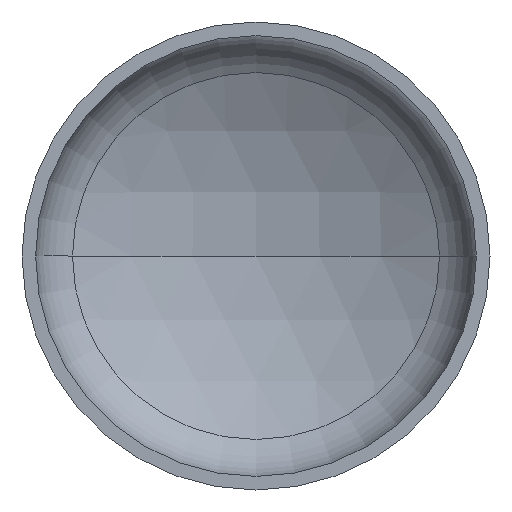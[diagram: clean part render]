
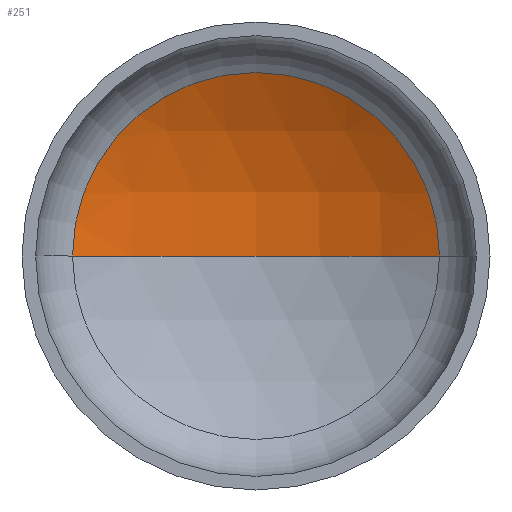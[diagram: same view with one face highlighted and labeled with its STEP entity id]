
A CAD part, front view. The second image highlights one B-rep face of the part: STEP entity #251.
In plain terms, the highlighted spherical face has radius 880 mm.
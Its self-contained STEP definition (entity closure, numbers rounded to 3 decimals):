
#1 = AXIS2_PLACEMENT_3D ( 'NONE', #166, #268, #61 ) ;
#15 = EDGE_LOOP ( 'NONE', ( #113, #118, #88 ) ) ;
#24 = AXIS2_PLACEMENT_3D ( 'NONE', #235, #236, #131 ) ;
#32 = AXIS2_PLACEMENT_3D ( 'NONE', #171, #167, #170 ) ;
#34 = VERTEX_POINT ( 'NONE', #300 ) ;
#48 = AXIS2_PLACEMENT_3D ( 'NONE', #185, #158, #201 ) ;
#61 = DIRECTION ( 'NONE',  ( 1., 0., 0. ) ) ;
#88 = ORIENTED_EDGE ( 'NONE', *, *, #344, .T. ) ;
#109 = VERTEX_POINT ( 'NONE', #213 ) ;
#113 = ORIENTED_EDGE ( 'NONE', *, *, #389, .F. ) ;
#118 = ORIENTED_EDGE ( 'NONE', *, *, #347, .T. ) ;
#131 = DIRECTION ( 'NONE',  ( -1., 0., 0. ) ) ;
#158 = DIRECTION ( 'NONE',  ( 0., 0., -1. ) ) ;
#166 = CARTESIAN_POINT ( 'NONE',  ( 0., -518.867, 0. ) ) ;
#167 = DIRECTION ( 'NONE',  ( 0., -1., 0. ) ) ;
#170 = DIRECTION ( 'NONE',  ( 1., 0., 0. ) ) ;
#171 = CARTESIAN_POINT ( 'NONE',  ( 0., 248.179, 0. ) ) ;
#185 = CARTESIAN_POINT ( 'NONE',  ( 0., -518.867, 0. ) ) ;
#201 = DIRECTION ( 'NONE',  ( -1., 0., 0. ) ) ;
#209 = CARTESIAN_POINT ( 'NONE',  ( 431.324, 248.179, 0. ) ) ;
#213 = CARTESIAN_POINT ( 'NONE',  ( 0., 361.133, 0. ) ) ;
#235 = CARTESIAN_POINT ( 'NONE',  ( 0., -518.867, 0. ) ) ;
#236 = DIRECTION ( 'NONE',  ( 0., 0., -1. ) ) ;
#246 = CIRCLE ( 'NONE', #24, 880. ) ;
#251 = ADVANCED_FACE ( 'NONE', ( #270 ), #393, .F. ) ;
#263 = VERTEX_POINT ( 'NONE', #209 ) ;
#268 = DIRECTION ( 'NONE',  ( 0., 0., 1. ) ) ;
#270 = FACE_OUTER_BOUND ( 'NONE', #15, .T. ) ;
#300 = CARTESIAN_POINT ( 'NONE',  ( -431.324, 248.179, 0. ) ) ;
#344 = EDGE_CURVE ( 'NONE', #263, #34, #379, .T. ) ;
#347 = EDGE_CURVE ( 'NONE', #109, #263, #246, .T. ) ;
#361 = CIRCLE ( 'NONE', #1, 880. ) ;
#379 = CIRCLE ( 'NONE', #32, 431.324 ) ;
#389 = EDGE_CURVE ( 'NONE', #109, #34, #361, .T. ) ;
#393 = SPHERICAL_SURFACE ( 'NONE', #48, 880. ) ;
